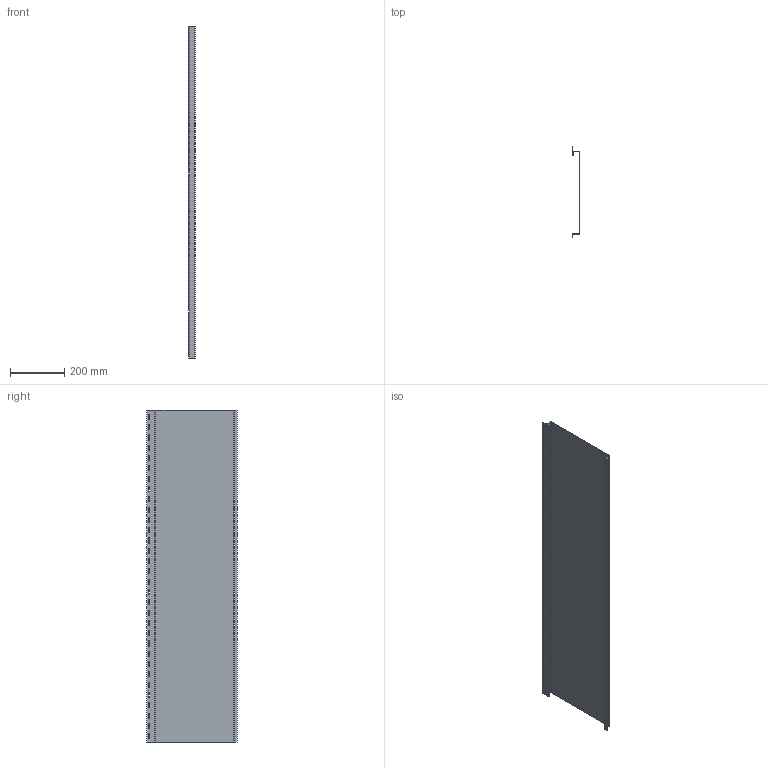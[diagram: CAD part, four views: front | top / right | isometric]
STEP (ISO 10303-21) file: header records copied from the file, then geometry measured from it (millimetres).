
FILE_DESCRIPTION(/* description */ (''),/* implementation_level */ '2;1');
FILE_NAME(/* name */ 'C:\Users\Utilisateur\Mac Metal\Site de communication - Documents\Ingénierie\1. Dessins techniques produits Mac\CAD _ REVIT Profiles drawing - MAC\Versa\VERSA.stp',/* time_stamp */ '2023-02-01T13:24:12-05:00',/* author */ ('Utilisateur'),/* organization */ (''),/* preprocessor_version */ 'ST-DEVELOPER v18.1',/* originating_system */ 'Autodesk Inventor 2022',/* authorisation */ '');
FILE_SCHEMA (('AUTOMOTIVE_DESIGN { 1 0 10303 214 3 1 1 }'));
Length unit declared in the file: inch
Products named in the file (1): MS9
Bounding box: 25.4 x 333.98 x 1227.94 mm (x, y, z)
Volume: 316089.8 mm3; surface area: 1000319 mm2
Topology: 1 solids, 1 shells, 156 faces, 462 edges, 308 vertices
Faces by surface type: plane 80, cylinder 76
Entity records: 5429 total; most frequent: DIRECTION 928, CARTESIAN_POINT 927, ORIENTED_EDGE 924, EDGE_CURVE 462, LINE 310, VECTOR 310, AXIS2_PLACEMENT_3D 309, VERTEX_POINT 308
